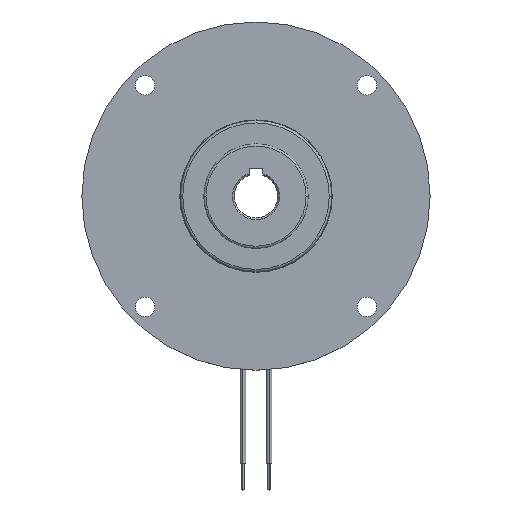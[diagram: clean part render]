
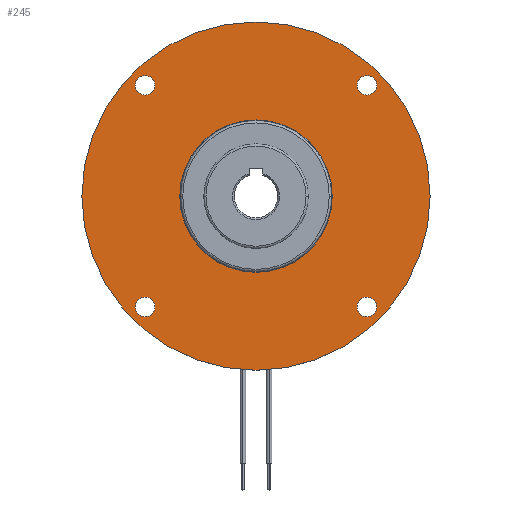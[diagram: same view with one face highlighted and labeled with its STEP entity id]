
A CAD part, top view. The second image highlights one B-rep face of the part: STEP entity #245.
In plain terms, the highlighted planar face has unit normal (0, 0, 1).
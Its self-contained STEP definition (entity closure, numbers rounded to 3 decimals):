
#58 = CARTESIAN_POINT ( 'NONE',  ( 0., 0., 0. ) ) ;
#78 = AXIS2_PLACEMENT_3D ( 'NONE', #6156, #6042, #1077 ) ;
#154 = DIRECTION ( 'NONE',  ( 0., 0., -1. ) ) ;
#157 = VERTEX_POINT ( 'NONE', #349 ) ;
#227 = EDGE_CURVE ( 'NONE', #844, #229, #3504, .T. ) ;
#229 = VERTEX_POINT ( 'NONE', #4494 ) ;
#245 = ADVANCED_FACE ( 'NONE', ( #6748, #4467, #6089, #2133, #3825, #1037 ), #6717, .F. ) ;
#290 = CARTESIAN_POINT ( 'NONE',  ( 27.706, -25.456, 0. ) ) ;
#304 = EDGE_LOOP ( 'NONE', ( #2713, #1682 ) ) ;
#349 = CARTESIAN_POINT ( 'NONE',  ( -27.706, 25.456, 0. ) ) ;
#408 = AXIS2_PLACEMENT_3D ( 'NONE', #4586, #5666, #6838 ) ;
#413 = ORIENTED_EDGE ( 'NONE', *, *, #4189, .T. ) ;
#568 = DIRECTION ( 'NONE',  ( 0., 0., -1. ) ) ;
#671 = ORIENTED_EDGE ( 'NONE', *, *, #1665, .T. ) ;
#805 = VERTEX_POINT ( 'NONE', #4535 ) ;
#844 = VERTEX_POINT ( 'NONE', #5211 ) ;
#852 = CIRCLE ( 'NONE', #1694, 40. ) ;
#911 = EDGE_LOOP ( 'NONE', ( #2380, #671 ) ) ;
#929 = VERTEX_POINT ( 'NONE', #290 ) ;
#935 = EDGE_CURVE ( 'NONE', #5877, #6803, #5026, .T. ) ;
#951 = AXIS2_PLACEMENT_3D ( 'NONE', #58, #1732, #3973 ) ;
#1037 = FACE_BOUND ( 'NONE', #911, .T. ) ;
#1039 = CARTESIAN_POINT ( 'NONE',  ( -27.706, -25.456, 0. ) ) ;
#1058 = CIRCLE ( 'NONE', #6974, 2.25 ) ;
#1077 = DIRECTION ( 'NONE',  ( -1., 0., 0. ) ) ;
#1107 = EDGE_LOOP ( 'NONE', ( #5717, #2607 ) ) ;
#1193 = CIRCLE ( 'NONE', #5138, 2.25 ) ;
#1219 = CARTESIAN_POINT ( 'NONE',  ( -25.456, 25.456, 0. ) ) ;
#1244 = AXIS2_PLACEMENT_3D ( 'NONE', #2096, #2700, #3283 ) ;
#1504 = DIRECTION ( 'NONE',  ( 0., 0., -1. ) ) ;
#1514 = EDGE_CURVE ( 'NONE', #157, #6567, #4498, .T. ) ;
#1665 = EDGE_CURVE ( 'NONE', #229, #844, #2018, .T. ) ;
#1682 = ORIENTED_EDGE ( 'NONE', *, *, #3036, .T. ) ;
#1694 = AXIS2_PLACEMENT_3D ( 'NONE', #5657, #568, #6720 ) ;
#1732 = DIRECTION ( 'NONE',  ( 0., 0., -1. ) ) ;
#1785 = DIRECTION ( 'NONE',  ( -1., 0., 0. ) ) ;
#1821 = DIRECTION ( 'NONE',  ( -1., 0., 0. ) ) ;
#2018 = CIRCLE ( 'NONE', #2861, 17.5 ) ;
#2096 = CARTESIAN_POINT ( 'NONE',  ( 0., 0., 0. ) ) ;
#2133 = FACE_BOUND ( 'NONE', #304, .T. ) ;
#2187 = CIRCLE ( 'NONE', #2540, 2.25 ) ;
#2276 = CARTESIAN_POINT ( 'NONE',  ( 23.206, -25.456, 0. ) ) ;
#2325 = CARTESIAN_POINT ( 'NONE',  ( 40., 0., 0. ) ) ;
#2337 = DIRECTION ( 'NONE',  ( 0., 0., -1. ) ) ;
#2380 = ORIENTED_EDGE ( 'NONE', *, *, #227, .T. ) ;
#2445 = EDGE_CURVE ( 'NONE', #6203, #929, #3351, .T. ) ;
#2522 = CARTESIAN_POINT ( 'NONE',  ( 25.456, 25.456, 0. ) ) ;
#2540 = AXIS2_PLACEMENT_3D ( 'NONE', #5712, #2969, #1821 ) ;
#2569 = DIRECTION ( 'NONE',  ( -1., 0., 0. ) ) ;
#2582 = EDGE_LOOP ( 'NONE', ( #4984, #6797 ) ) ;
#2607 = ORIENTED_EDGE ( 'NONE', *, *, #7153, .T. ) ;
#2613 = EDGE_CURVE ( 'NONE', #805, #4418, #2187, .T. ) ;
#2700 = DIRECTION ( 'NONE',  ( 0., 0., -1. ) ) ;
#2713 = ORIENTED_EDGE ( 'NONE', *, *, #1514, .T. ) ;
#2861 = AXIS2_PLACEMENT_3D ( 'NONE', #6215, #2337, #6176 ) ;
#2913 = CARTESIAN_POINT ( 'NONE',  ( 25.456, -25.456, 0. ) ) ;
#2969 = DIRECTION ( 'NONE',  ( 0., 0., -1. ) ) ;
#3036 = EDGE_CURVE ( 'NONE', #6567, #157, #1193, .T. ) ;
#3215 = DIRECTION ( 'NONE',  ( -1., 0., 0. ) ) ;
#3283 = DIRECTION ( 'NONE',  ( -1., 0., 0. ) ) ;
#3351 = CIRCLE ( 'NONE', #3931, 2.25 ) ;
#3418 = EDGE_CURVE ( 'NONE', #6478, #5968, #4144, .T. ) ;
#3504 = CIRCLE ( 'NONE', #1244, 17.5 ) ;
#3537 = DIRECTION ( 'NONE',  ( -1., 0., 0. ) ) ;
#3825 = FACE_OUTER_BOUND ( 'NONE', #6930, .T. ) ;
#3916 = EDGE_LOOP ( 'NONE', ( #5552, #413 ) ) ;
#3931 = AXIS2_PLACEMENT_3D ( 'NONE', #5063, #5646, #7311 ) ;
#3953 = ORIENTED_EDGE ( 'NONE', *, *, #5905, .F. ) ;
#3973 = DIRECTION ( 'NONE',  ( -1., 0., 0. ) ) ;
#4144 = CIRCLE ( 'NONE', #951, 40. ) ;
#4189 = EDGE_CURVE ( 'NONE', #929, #6203, #1058, .T. ) ;
#4383 = ORIENTED_EDGE ( 'NONE', *, *, #3418, .F. ) ;
#4418 = VERTEX_POINT ( 'NONE', #4895 ) ;
#4421 = EDGE_CURVE ( 'NONE', #4418, #805, #6634, .T. ) ;
#4467 = FACE_BOUND ( 'NONE', #3916, .T. ) ;
#4494 = CARTESIAN_POINT ( 'NONE',  ( 17.5, 0., 0. ) ) ;
#4498 = CIRCLE ( 'NONE', #6378, 2.25 ) ;
#4535 = CARTESIAN_POINT ( 'NONE',  ( 27.706, 25.456, 0. ) ) ;
#4561 = CARTESIAN_POINT ( 'NONE',  ( -25.456, 25.456, 0. ) ) ;
#4586 = CARTESIAN_POINT ( 'NONE',  ( -25.456, -25.456, 0. ) ) ;
#4645 = DIRECTION ( 'NONE',  ( 0., 0., -1. ) ) ;
#4716 = DIRECTION ( 'NONE',  ( -1., 0., 0. ) ) ;
#4895 = CARTESIAN_POINT ( 'NONE',  ( 23.206, 25.456, 0. ) ) ;
#4953 = CARTESIAN_POINT ( 'NONE',  ( -23.206, -25.456, 0. ) ) ;
#4984 = ORIENTED_EDGE ( 'NONE', *, *, #4421, .T. ) ;
#5026 = CIRCLE ( 'NONE', #5144, 2.25 ) ;
#5063 = CARTESIAN_POINT ( 'NONE',  ( 25.456, -25.456, 0. ) ) ;
#5088 = CARTESIAN_POINT ( 'NONE',  ( -40., 0., 0. ) ) ;
#5138 = AXIS2_PLACEMENT_3D ( 'NONE', #4561, #6276, #3537 ) ;
#5144 = AXIS2_PLACEMENT_3D ( 'NONE', #5445, #7061, #3215 ) ;
#5211 = CARTESIAN_POINT ( 'NONE',  ( -17.5, 0., 0. ) ) ;
#5445 = CARTESIAN_POINT ( 'NONE',  ( -25.456, -25.456, 0. ) ) ;
#5552 = ORIENTED_EDGE ( 'NONE', *, *, #2445, .T. ) ;
#5626 = CIRCLE ( 'NONE', #408, 2.25 ) ;
#5646 = DIRECTION ( 'NONE',  ( 0., 0., -1. ) ) ;
#5657 = CARTESIAN_POINT ( 'NONE',  ( 0., 0., 0. ) ) ;
#5666 = DIRECTION ( 'NONE',  ( 0., 0., -1. ) ) ;
#5712 = CARTESIAN_POINT ( 'NONE',  ( 25.456, 25.456, 0. ) ) ;
#5717 = ORIENTED_EDGE ( 'NONE', *, *, #935, .T. ) ;
#5847 = CARTESIAN_POINT ( 'NONE',  ( -23.206, 25.456, 0. ) ) ;
#5877 = VERTEX_POINT ( 'NONE', #1039 ) ;
#5905 = EDGE_CURVE ( 'NONE', #5968, #6478, #852, .T. ) ;
#5968 = VERTEX_POINT ( 'NONE', #2325 ) ;
#6042 = DIRECTION ( 'NONE',  ( 0., 0., -1. ) ) ;
#6089 = FACE_BOUND ( 'NONE', #1107, .T. ) ;
#6156 = CARTESIAN_POINT ( 'NONE',  ( 0., 40., 0. ) ) ;
#6176 = DIRECTION ( 'NONE',  ( -1., 0., 0. ) ) ;
#6203 = VERTEX_POINT ( 'NONE', #2276 ) ;
#6215 = CARTESIAN_POINT ( 'NONE',  ( 0., 0., 0. ) ) ;
#6276 = DIRECTION ( 'NONE',  ( 0., 0., -1. ) ) ;
#6378 = AXIS2_PLACEMENT_3D ( 'NONE', #1219, #4645, #1785 ) ;
#6478 = VERTEX_POINT ( 'NONE', #5088 ) ;
#6510 = AXIS2_PLACEMENT_3D ( 'NONE', #2522, #1504, #2569 ) ;
#6567 = VERTEX_POINT ( 'NONE', #5847 ) ;
#6634 = CIRCLE ( 'NONE', #6510, 2.25 ) ;
#6717 = PLANE ( 'NONE',  #78 ) ;
#6720 = DIRECTION ( 'NONE',  ( -1., 0., 0. ) ) ;
#6748 = FACE_BOUND ( 'NONE', #2582, .T. ) ;
#6797 = ORIENTED_EDGE ( 'NONE', *, *, #2613, .T. ) ;
#6803 = VERTEX_POINT ( 'NONE', #4953 ) ;
#6838 = DIRECTION ( 'NONE',  ( -1., 0., 0. ) ) ;
#6930 = EDGE_LOOP ( 'NONE', ( #4383, #3953 ) ) ;
#6974 = AXIS2_PLACEMENT_3D ( 'NONE', #2913, #154, #4716 ) ;
#7061 = DIRECTION ( 'NONE',  ( 0., 0., -1. ) ) ;
#7153 = EDGE_CURVE ( 'NONE', #6803, #5877, #5626, .T. ) ;
#7311 = DIRECTION ( 'NONE',  ( -1., 0., 0. ) ) ;
